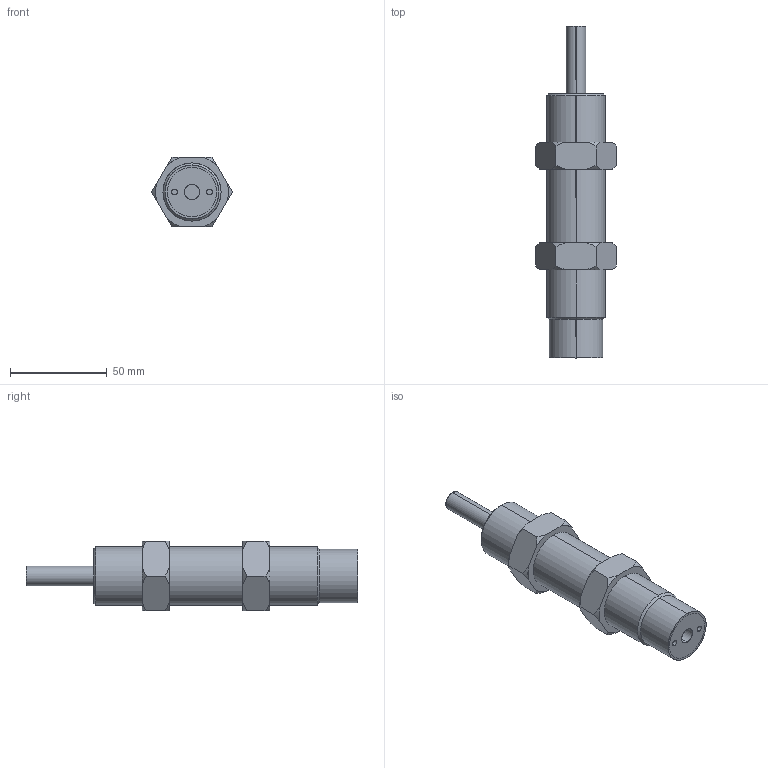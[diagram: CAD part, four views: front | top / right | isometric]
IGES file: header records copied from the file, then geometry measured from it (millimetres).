
Start section: SolidWorks IGES file using analytic representation for surfaces
Bounding box: 41.57 x 171.5 x 36 mm (x, y, z)
Surface area: 22260 mm2 (no closed solid volume)
Topology: 0 solids, 0 shells, 88 faces, 1466 edges, 1466 vertices
Faces by surface type: revolution 60, bspline 28
